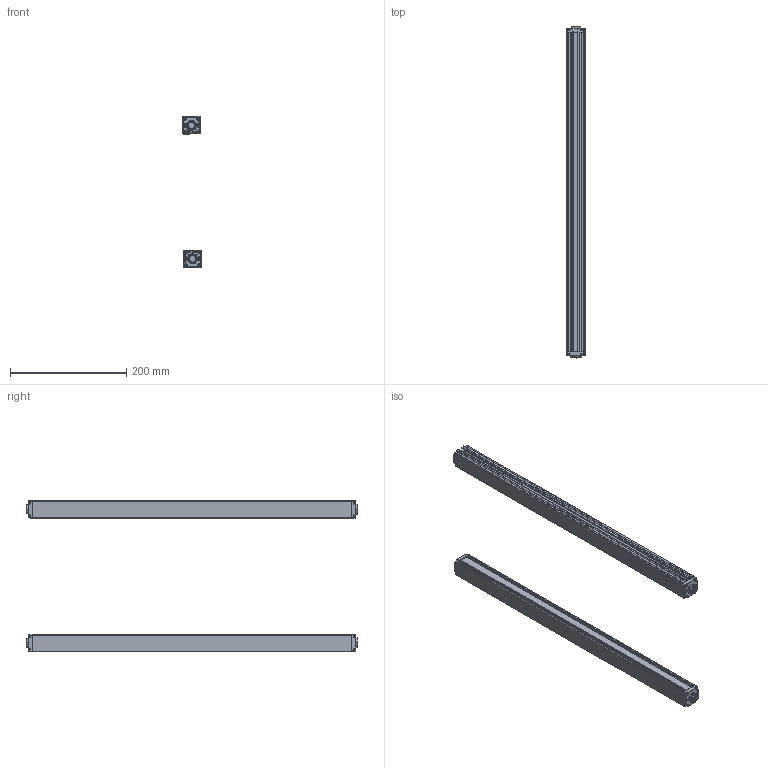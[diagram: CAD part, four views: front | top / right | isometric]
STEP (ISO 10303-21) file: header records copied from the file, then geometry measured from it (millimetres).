
FILE_DESCRIPTION (( 'STEP AP203' ), '1' );
FILE_NAME ('ZDA1440-550.STEP', '2022-08-30T07:42:46', ( 'Windows 蚚誧' ), ( 'Organization' ), 'SwSTEP 2.0', 'SolidWorks 2020', '' );
FILE_SCHEMA (( 'CONFIG_CONTROL_DESIGN' ));
Length unit declared in the file: millimetre
Products named in the file (5): ZDA1440-550; 錨璃1; 錨璃8; 錨璃8 - 萵掛 (2); 錨璃10
Assembly tree (8 placements, depth 2):
  ZDA1440-550
    錨璃1  x2
    錨璃8  x2
    錨璃8 - 萵掛 (2)  x2
    錨璃10  x2
Bounding box: 32.36 x 571.4 x 260.35 mm (x, y, z)
Volume: 354317.9 mm3; surface area: 376251.2 mm2
Topology: 8 solids, 8 shells, 1032 faces, 2690 edges, 1668 vertices
Faces by surface type: plane 464, cylinder 310, cone 120, bspline 58, torus 48, sphere 32
Entity records: 17901 total; most frequent: CARTESIAN_POINT 4731, ORIENTED_EDGE 2666, DIRECTION 2616, EDGE_CURVE 1333, AXIS2_PLACEMENT_3D 894, VERTEX_POINT 834, LINE 828, VECTOR 828
